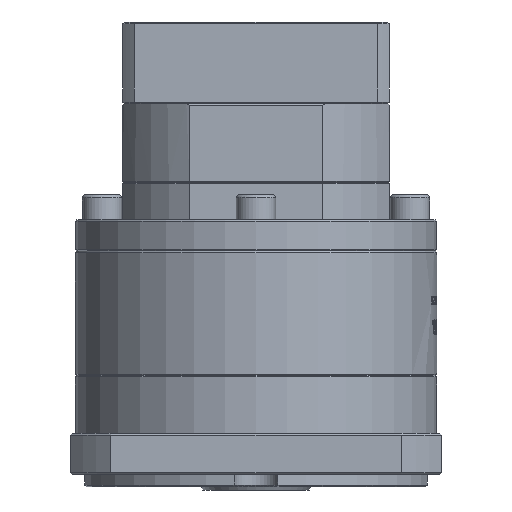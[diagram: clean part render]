
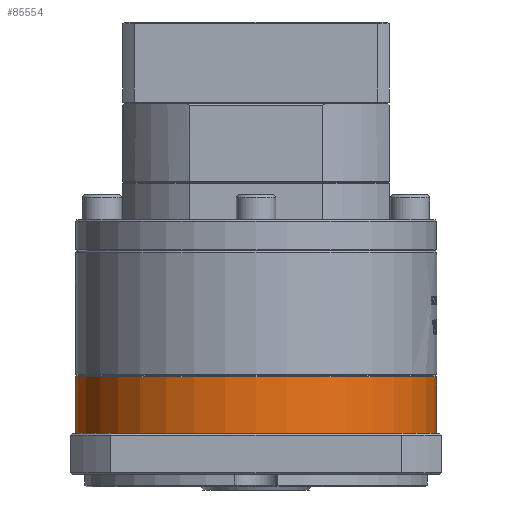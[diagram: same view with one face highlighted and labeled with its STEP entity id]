
A CAD part, front view. The second image highlights one B-rep face of the part: STEP entity #85554.
In plain terms, the highlighted cylindrical face has radius 57.5 mm (diameter 115 mm), a partial arc.
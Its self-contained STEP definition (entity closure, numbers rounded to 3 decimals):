
#6613 = EDGE_CURVE ( 'NONE', #71267, #77524, #91231, .T. ) ;
#7155 = CARTESIAN_POINT ( 'NONE',  ( -37.428, 38.218, -66.554 ) ) ;
#12661 = CARTESIAN_POINT ( 'NONE',  ( -37.428, 38.218, -48.554 ) ) ;
#14320 = EDGE_LOOP ( 'NONE', ( #76834, #80525, #77469, #23111 ) ) ;
#20638 = CARTESIAN_POINT ( 'NONE',  ( -37.428, 38.218, -66.554 ) ) ;
#21751 = VECTOR ( 'NONE', #40238, 1000. ) ;
#23111 = ORIENTED_EDGE ( 'NONE', *, *, #29916, .F. ) ;
#24231 = CYLINDRICAL_SURFACE ( 'NONE', #49418, 57.5 ) ;
#24830 = CARTESIAN_POINT ( 'NONE',  ( -152.428, 38.218, -66.554 ) ) ;
#29916 = EDGE_CURVE ( 'NONE', #93703, #65448, #98367, .T. ) ;
#31489 = EDGE_CURVE ( 'NONE', #77524, #65448, #68551, .T. ) ;
#35144 = CARTESIAN_POINT ( 'NONE',  ( -94.928, 38.218, -48.554 ) ) ;
#37799 = AXIS2_PLACEMENT_3D ( 'NONE', #35144, #93325, #43468 ) ;
#37860 = VECTOR ( 'NONE', #83343, 1000. ) ;
#39550 = CARTESIAN_POINT ( 'NONE',  ( -94.928, 38.218, -66.554 ) ) ;
#40238 = DIRECTION ( 'NONE',  ( 0., 0., 1. ) ) ;
#43468 = DIRECTION ( 'NONE',  ( -1., 0., 0. ) ) ;
#47895 = DIRECTION ( 'NONE',  ( 1., 0., 0. ) ) ;
#49418 = AXIS2_PLACEMENT_3D ( 'NONE', #66627, #75048, #66979 ) ;
#51785 = EDGE_CURVE ( 'NONE', #71267, #93703, #82078, .T. ) ;
#64714 = CARTESIAN_POINT ( 'NONE',  ( -152.428, 38.218, -66.554 ) ) ;
#65448 = VERTEX_POINT ( 'NONE', #12661 ) ;
#66627 = CARTESIAN_POINT ( 'NONE',  ( -94.928, 38.218, -66.554 ) ) ;
#66979 = DIRECTION ( 'NONE',  ( 1., 0., 0. ) ) ;
#68551 = LINE ( 'NONE', #7155, #21751 ) ;
#71267 = VERTEX_POINT ( 'NONE', #64714 ) ;
#72165 = AXIS2_PLACEMENT_3D ( 'NONE', #39550, #97786, #47895 ) ;
#75048 = DIRECTION ( 'NONE',  ( 0., 0., 1. ) ) ;
#76288 = FACE_OUTER_BOUND ( 'NONE', #14320, .T. ) ;
#76834 = ORIENTED_EDGE ( 'NONE', *, *, #51785, .F. ) ;
#77469 = ORIENTED_EDGE ( 'NONE', *, *, #31489, .T. ) ;
#77524 = VERTEX_POINT ( 'NONE', #20638 ) ;
#80525 = ORIENTED_EDGE ( 'NONE', *, *, #6613, .T. ) ;
#81869 = CARTESIAN_POINT ( 'NONE',  ( -152.428, 38.218, -48.554 ) ) ;
#82078 = LINE ( 'NONE', #24830, #37860 ) ;
#83343 = DIRECTION ( 'NONE',  ( 0., 0., 1. ) ) ;
#85554 = ADVANCED_FACE ( 'NONE', ( #76288 ), #24231, .T. ) ;
#91231 = CIRCLE ( 'NONE', #72165, 57.5 ) ;
#93325 = DIRECTION ( 'NONE',  ( 0., 0., 1. ) ) ;
#93703 = VERTEX_POINT ( 'NONE', #81869 ) ;
#97786 = DIRECTION ( 'NONE',  ( 0., 0., 1. ) ) ;
#98367 = CIRCLE ( 'NONE', #37799, 57.5 ) ;
